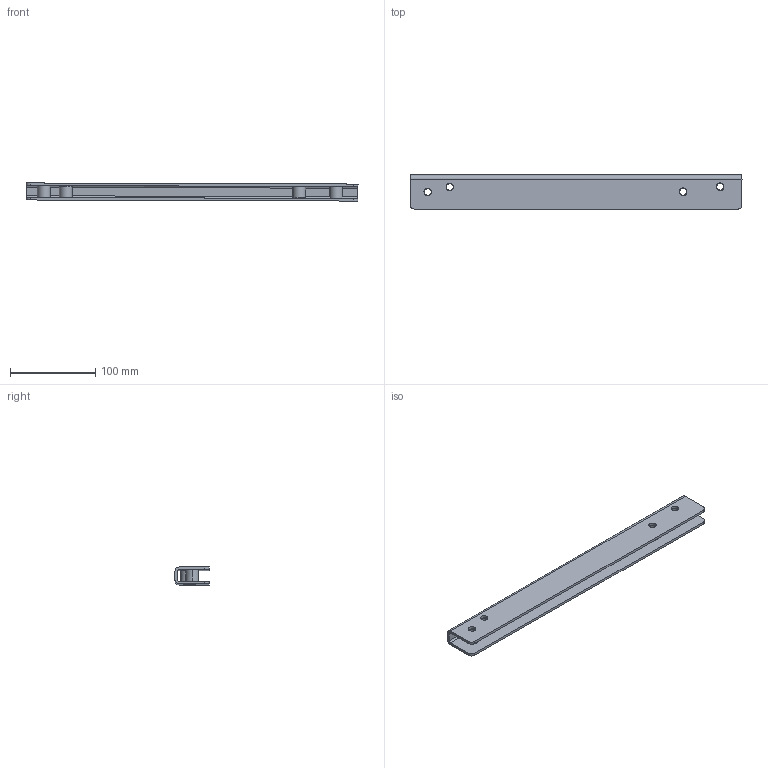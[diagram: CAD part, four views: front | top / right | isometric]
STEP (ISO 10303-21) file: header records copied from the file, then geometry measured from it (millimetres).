
FILE_DESCRIPTION(('CATIA V5 STEP Exchange'),'2;1');
FILE_NAME('C:\Users\Administrator\Desktop\J6G样件数据\旋转副驾\转盘与底支架连接梁总成.stp','2023-04-10T05:24:52+00:00',('none'),('none'),'CATIA Version 5 Release 20 GA (IN-10)','CATIA V5 STEP AP214','none');
FILE_SCHEMA(('AUTOMOTIVE_DESIGN { 1 0 10303 214 1 1 1 1 }'));
Length unit declared in the file: millimetre
Products named in the file (4): 666; 333; a; SQXM3000-6805834
Assembly tree (6 placements, depth 3):
  666
    333
      a
      SQXM3000-6805834  x4
Bounding box: 390.06 x 40 x 21.29 mm (x, y, z)
Volume: 111908.9 mm3; surface area: 78399.6 mm2
Topology: 5 solids, 5 shells, 90 faces, 224 edges, 144 vertices
Faces by surface type: cylinder 40, cone 32, plane 18
Entity records: 1934 total; most frequent: CARTESIAN_POINT 641, ORIENTED_EDGE 256, DIRECTION 219, EDGE_CURVE 128, AXIS2_PLACEMENT_3D 108, VERTEX_POINT 84, EDGE_LOOP 66, VECTOR 60
